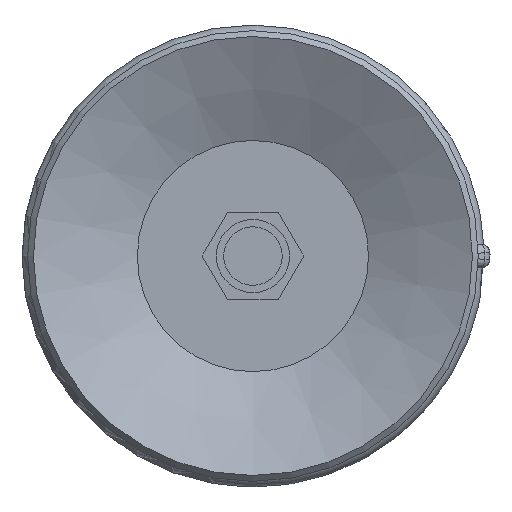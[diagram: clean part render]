
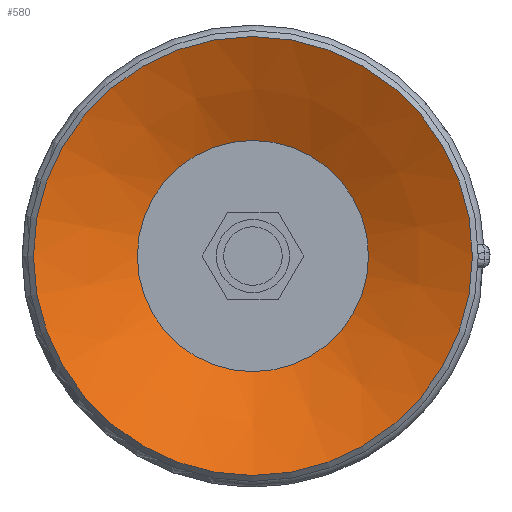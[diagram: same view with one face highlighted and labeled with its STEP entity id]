
A CAD part, front view. The second image highlights one B-rep face of the part: STEP entity #580.
In plain terms, the highlighted conical face has half-angle 64 degrees and reference radius 3.95 mm.
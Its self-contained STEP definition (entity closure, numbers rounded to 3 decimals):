
#580=ADVANCED_FACE('',(#891,#892),#893,.F.);
#891=FACE_BOUND('',#1315,.T.);
#892=FACE_OUTER_BOUND('',#1316,.T.);
#893=CONICAL_SURFACE('',#1317,3.95,1.117);
#1315=EDGE_LOOP('',(#2125));
#1316=EDGE_LOOP('',(#2126));
#1317=AXIS2_PLACEMENT_3D('',#2127,#2128,#2129);
#2125=ORIENTED_EDGE('',*,*,#2361,.F.);
#2126=ORIENTED_EDGE('',*,*,#2332,.T.);
#2127=CARTESIAN_POINT('',(0.0,-29.404,-47.168));
#2128=DIRECTION('',(-0.0,0.,1.0));
#2129=DIRECTION('',(0.0,-1.0,0.));
#2332=EDGE_CURVE('',#2694,#2694,#2695,.T.);
#2361=EDGE_CURVE('',#2740,#2740,#2741,.T.);
#2694=VERTEX_POINT('',#3454);
#2695=CIRCLE('',#3455,7.5);
#2740=VERTEX_POINT('',#3522);
#2741=CIRCLE('',#3523,3.95);
#3454=CARTESIAN_POINT('',(0.0,-36.904,-45.437));
#3455=AXIS2_PLACEMENT_3D('',#3822,#3823,#3824);
#3522=CARTESIAN_POINT('',(0.0,-33.354,-47.168));
#3523=AXIS2_PLACEMENT_3D('',#3894,#3895,#3896);
#3822=CARTESIAN_POINT('',(0.0,-29.404,-45.437));
#3823=DIRECTION('',(0.0,0.,1.0));
#3824=DIRECTION('',(0.0,-1.0,0.));
#3894=CARTESIAN_POINT('',(0.0,-29.404,-47.168));
#3895=DIRECTION('',(0.0,0.,1.0));
#3896=DIRECTION('',(0.0,-1.0,0.));
